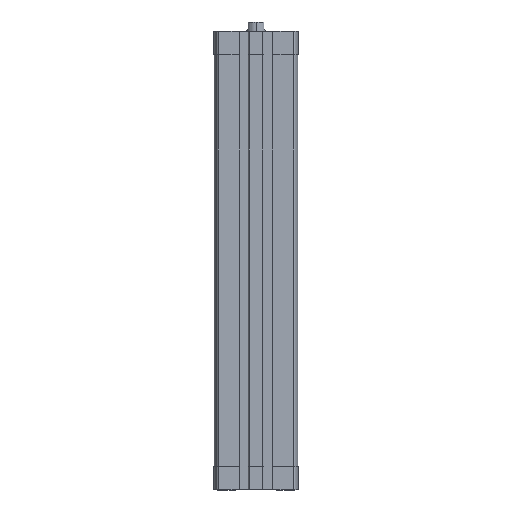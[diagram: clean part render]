
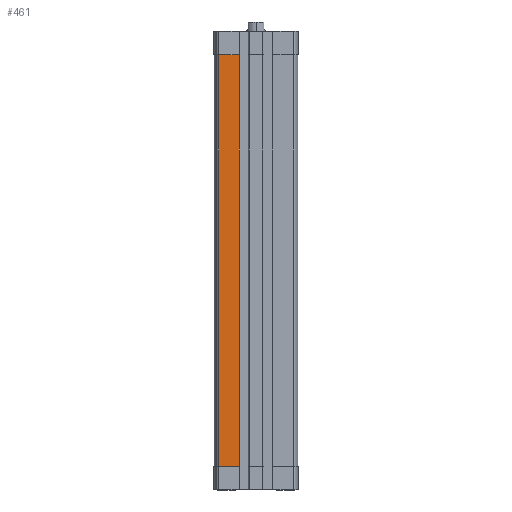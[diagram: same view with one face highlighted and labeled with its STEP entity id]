
A CAD part, left-side view. The second image highlights one B-rep face of the part: STEP entity #461.
In plain terms, the highlighted planar face has unit normal (-1, 0, 0).
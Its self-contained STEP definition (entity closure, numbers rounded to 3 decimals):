
#84 = CARTESIAN_POINT ( 'NONE',  ( -27., 10.7, -280. ) ) ;
#461 = ADVANCED_FACE ( 'NONE', ( #3697 ), #11991, .T. ) ;
#540 = DIRECTION ( 'NONE',  ( 0., 0., -1. ) ) ;
#788 = VERTEX_POINT ( 'NONE', #84 ) ;
#1399 = DIRECTION ( 'NONE',  ( 0., -1., 0. ) ) ;
#1469 = VECTOR ( 'NONE', #540, 1000. ) ;
#2365 = ORIENTED_EDGE ( 'NONE', *, *, #4304, .T. ) ;
#2569 = EDGE_LOOP ( 'NONE', ( #12806, #11358, #2365, #5852 ) ) ;
#3697 = FACE_OUTER_BOUND ( 'NONE', #2569, .T. ) ;
#4136 = CARTESIAN_POINT ( 'NONE',  ( -27., 24.093, -280. ) ) ;
#4304 = EDGE_CURVE ( 'NONE', #4819, #4729, #13335, .T. ) ;
#4338 = LINE ( 'NONE', #14904, #1469 ) ;
#4729 = VERTEX_POINT ( 'NONE', #5100 ) ;
#4819 = VERTEX_POINT ( 'NONE', #11261 ) ;
#5100 = CARTESIAN_POINT ( 'NONE',  ( -27., 24.093, -15. ) ) ;
#5852 = ORIENTED_EDGE ( 'NONE', *, *, #12170, .T. ) ;
#6056 = DIRECTION ( 'NONE',  ( 0., 0., 1. ) ) ;
#6977 = DIRECTION ( 'NONE',  ( 0., 1., 0. ) ) ;
#7017 = VECTOR ( 'NONE', #6977, 1000. ) ;
#7479 = CARTESIAN_POINT ( 'NONE',  ( -27., 24.093, -280. ) ) ;
#7895 = DIRECTION ( 'NONE',  ( 0., 0., 1. ) ) ;
#10742 = CARTESIAN_POINT ( 'NONE',  ( -27., 24.093, -280. ) ) ;
#11261 = CARTESIAN_POINT ( 'NONE',  ( -27., 10.7, -15. ) ) ;
#11268 = LINE ( 'NONE', #7479, #14422 ) ;
#11332 = EDGE_CURVE ( 'NONE', #11834, #788, #11268, .T. ) ;
#11358 = ORIENTED_EDGE ( 'NONE', *, *, #14418, .T. ) ;
#11740 = CARTESIAN_POINT ( 'NONE',  ( -27., 0., -15. ) ) ;
#11834 = VERTEX_POINT ( 'NONE', #4136 ) ;
#11991 = PLANE ( 'NONE',  #12254 ) ;
#12170 = EDGE_CURVE ( 'NONE', #4729, #11834, #4338, .T. ) ;
#12254 = AXIS2_PLACEMENT_3D ( 'NONE', #10742, #13180, #6056 ) ;
#12806 = ORIENTED_EDGE ( 'NONE', *, *, #11332, .T. ) ;
#13180 = DIRECTION ( 'NONE',  ( -1., 0., 0. ) ) ;
#13335 = LINE ( 'NONE', #11740, #7017 ) ;
#14418 = EDGE_CURVE ( 'NONE', #788, #4819, #15337, .T. ) ;
#14422 = VECTOR ( 'NONE', #1399, 1000. ) ;
#14904 = CARTESIAN_POINT ( 'NONE',  ( -27., 24.093, -280. ) ) ;
#14958 = VECTOR ( 'NONE', #7895, 1000. ) ;
#15036 = CARTESIAN_POINT ( 'NONE',  ( -27., 10.7, -280. ) ) ;
#15337 = LINE ( 'NONE', #15036, #14958 ) ;
